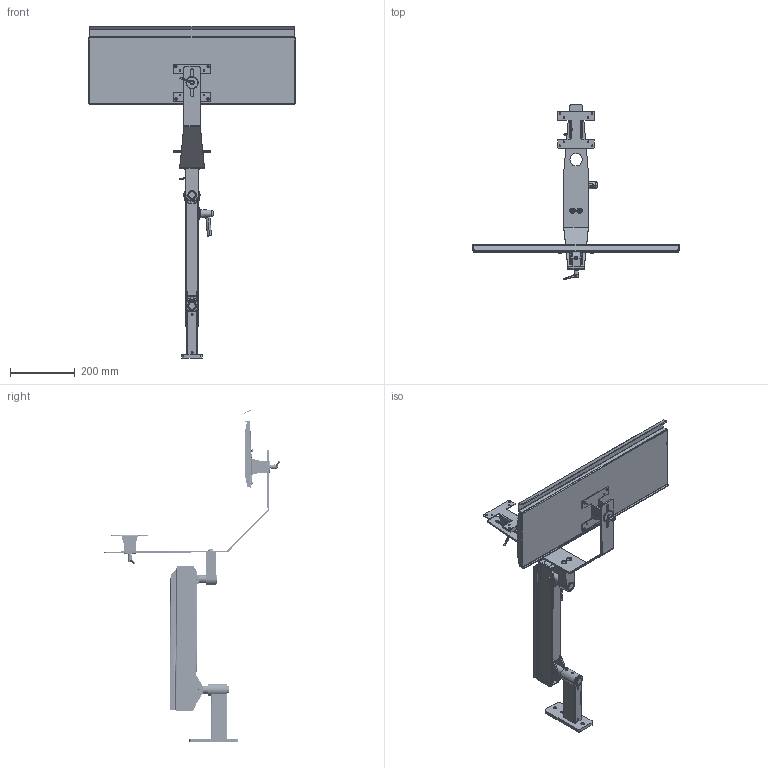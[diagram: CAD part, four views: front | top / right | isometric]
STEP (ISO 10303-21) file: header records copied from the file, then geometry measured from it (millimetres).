
FILE_DESCRIPTION (( 'STEP AP203' ), '1' );
FILE_NAME ('70-8645-00 REV AA, IND. FLEX 360 WORKSTATION, 4-21 LB - FLAT.STEP', '2025-09-30T00:10:57', ( '' ), ( '' ), 'SwSTEP 2.0', 'SolidWorks 2025', '' );
FILE_SCHEMA (( 'CONFIG_CONTROL_DESIGN' ));
Length unit declared in the file: inch
Products named in the file (61): 013-062-00, SPRING, RED, 1x8_ISO425203; 71-0072-RX REV AA, EXTENSION ARM, RAW; 70-0269-00 REV AA, CABLE COVER, 13.5in FLEX, BLACK; 011-020-00 REV AA, PIN, KNURLED, 1.0LG x .25OD; 71-0091-RX REV AA, HOUSING, WALL MOUNT, 6in EXTENSION; 11-0028-RX REV AA, PLASTIC DISC, VESA; 70-0080-00 REV AA, INTEGRATED WORKSTATION_TRAY HORIZONTAL; 11-0601-99 REV AA, CONICAL KNOB, BRAKE ASSEMBLY; 41-0060-RX REV AA, BODY, VESA, INT. WORKSTATION; 71-0029-RX REV AA, TAB, LOAD; 71-1032-RX REV AA, SPRING ROD, 13.5in FLEX; 016-008-00, OILITE PLUS BEARING, 0.876 id x 1.002 od x 1.25 lg; 025-064-00, LOCK LEVER, QUARTER20 x .390; 71-0030-RX REV AA, KNUCKLE, LOAD_MACHINE; 016-070-00, BEARING, PLASTIC, .5ID x .625 OD x .75; 71-0070-RX REV AA, AXLE PIN, SHORT; 010-012-00, RETAINING RING, EXTERNAL, .875in SHAFT; 007-034-00, SHSS, .375-24, .25L_007-034-00; 007-017-00, SHSS, 1''4-20, .25L_DEFAULT; 42-0060-00 REV AA, VESA SUB ASSEMBLY, INT. WORKSTATION; 71-0037-RX REV AA, PIVOT, THREADED; 71-0071-RX REV AA, AXLE PIN, LONG; 71-1051-RX REV AA, SPRING BLOCK; 71-0972-99 REV AA, END CAP, FLEX; 11-0602-RX REV AA, HANDLE, BRAKE ASSEMBLY; 71-1033-RX REV AA, BOLT, ADJUSTING, 10.9; 71-2113-RX REV AA, HOUSING, BEARING, TALL, 1.5OD_MACHINE; 71-0028-RX REV AA, TAB, MOUNT_MACHINE; 011-033-00; 004-050-00, WASHER, FIBER, .032 THK, .265ID; 71-1301-BLKX REV AA, FLEX HOUSING, 13.5in, BLACK_Powder Coat; 71-1300-RX REV AA, HOUSING, 13.5in FLEX; 71-0038-RX REV AA, PIVOT, KNUCKLE, ELECTROLESS NICKEL; 006-004-00_006-004-00; 11-0650-00 REV AA, BRAKE HANDLE ASSEMBLY; 006-059-00; 11-0405-BLKX REV AA, BRACKET, INTEGRATED WORKSTATION, BLACK; 016-007-00, OILITE PLUS BEARING, 0.876 id x 1.002 od x 0.75 lg; 71-0040-RX REV AA, BRAKE BLOCK, WIDE_MACHINE; 019-004_019-004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
Assembly tree (107 placements, depth 5):
  70-8645-00 REV AA, IND. FLEX 360 WORKSTATION, 4-21 LB - FLAT
    70-0095-00 REV AA, STUD MOUNT, 6in EXT
      71-0217-RX REV AA, PLATE, NARROW WALL MOUNT_Laser
      71-0091-RX REV AA, HOUSING, WALL MOUNT, 6in EXTENSION
      71-2113-RX REV AA, HOUSING, BEARING, TALL, 1.5OD_MACHINE
      016-007-00, OILITE PLUS BEARING, 0.876 id x 1.002 od x 0.75 lg
      016-008-00, OILITE PLUS BEARING, 0.876 id x 1.002 od x 1.25 lg
      007-036-00, SHSS, 1''4-28, .25L_007-036-00
    70-1321-00 REV AA, FLEX SECTION, 13.5in, 4-21 LB
      71-0031-RX REV AA, KNUCKLE, MOUNT_MACHINE
      71-1032-RX REV AA, SPRING ROD, 13.5in FLEX
      71-0030-RX REV AA, KNUCKLE, LOAD_MACHINE
      71-0038-RX REV AA, PIVOT, KNUCKLE, ELECTROLESS NICKEL
      71-1033-RX REV AA, BOLT, ADJUSTING, 10.9
      71-0037-RX REV AA, PIVOT, THREADED
      71-0040-RX REV AA, BRAKE BLOCK, WIDE_MACHINE
      71-1051-RX REV AA, SPRING BLOCK
      71-0070-RX REV AA, AXLE PIN, SHORT
      11-0027-RX REV AA, PLASTIC DISC, BRAKE ASSEMBLY_MACHINE
      11-0650-00 REV AA, BRAKE HANDLE ASSEMBLY
        11-0601-99 REV AA, CONICAL KNOB, BRAKE ASSEMBLY
        11-0602-RX REV AA, HANDLE, BRAKE ASSEMBLY
        11-0027-RX REV AA, PLASTIC DISC, BRAKE ASSEMBLY_MACHINE
        005-084-00, BOLT, 1''4-20x2.75
      71-1301-BLKX REV AA, FLEX HOUSING, 13.5in, BLACK_Powder Coat
        71-1300-RX REV AA, HOUSING, 13.5in FLEX
        71-0029-RX REV AA, TAB, LOAD  x2
        71-0028-RX REV AA, TAB, MOUNT_MACHINE  x2
      71-0071-RX REV AA, AXLE PIN, LONG
      010-011-00, RETAINING RING, EXT, .250 SHAFT_010-011-00  x4
      71-0972-99 REV AA, END CAP, FLEX  x2
      006-004-00_006-004-00  x2
      002-041-00_002-041-00  x2
      010-012-00, RETAINING RING, EXTERNAL, .875in SHAFT  x2
      011-033-00
      004-050-00, WASHER, FIBER, .032 THK, .265ID  x8
      011-020-00 REV AA, PIN, KNURLED, 1.0LG x .25OD  x2
      004-144-00  x3
      006-059-00
      013-062-00, SPRING, RED, 1x8_ISO425203
      016-070-00, BEARING, PLASTIC, .5ID x .625 OD x .75  x2
    70-0080-00 REV AA, INTEGRATED WORKSTATION_TRAY HORIZONTAL
      11-0405-BLKX REV AA, BRACKET, INTEGRATED WORKSTATION, BLACK
      42-0060-00 REV AA, VESA SUB ASSEMBLY, INT. WORKSTATION
        41-0060-ANX REV AA, BODY, VESA, INT. WORKSTATION, BLACK
          41-0060-RX REV AA, BODY, VESA, INT. WORKSTATION
        41-0063-RX REV AA, PIN, TILT, VESA
        11-0062-BLKX REV AA, BRACKET, VESA, SHEETMETAL, BLACK
        11-0027-RX REV AA, PLASTIC DISC, BRAKE ASSEMBLY_MACHINE
        025-064-00, LOCK LEVER, QUARTER20 x .390
        016-012-00, OILITE PLUS BEARING, .876 IDx1.0 OD x 1.0
        007-034-00, SHSS, .375-24, .25L_007-034-00
        11-0028-RX REV AA, PLASTIC DISC, VESA  x2
        002-088-00, FHSCS 10-32 x .5L, BO_002-088-00  x4
      11-0406-BLKX REV AA, KEYBOARD TRAY, 25x8, BLACK
      70-0072-00 REV AA, EXTENSION ARM
        71-0072-RX REV AA, EXTENSION ARM, RAW
        016-008-00, OILITE PLUS BEARING, 0.876 id x 1.002 od x 1.25 lg
        007-017-00, SHSS, 1''4-20, .25L_DEFAULT
      002-306-00, BHSCS, 3''8-16 x .625  x2
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Bounding box: 641.2 x 543.73 x 1029.01 mm (x, y, z)
Volume: 1590179.6 mm3; surface area: 1081726.6 mm2
Topology: 104 solids, 104 shells, 3311 faces, 8105 edges, 5010 vertices
Faces by surface type: cylinder 1489, plane 888, cone 708, torus 129, bspline 87, sphere 10
Entity records: 100531 total; most frequent: CARTESIAN_POINT 55045, ORIENTED_EDGE 7980, DIRECTION 7798, EDGE_CURVE 3990, AXIS2_PLACEMENT_3D 2987, VERTEX_POINT 2466, VECTOR 1824, LINE 1824
